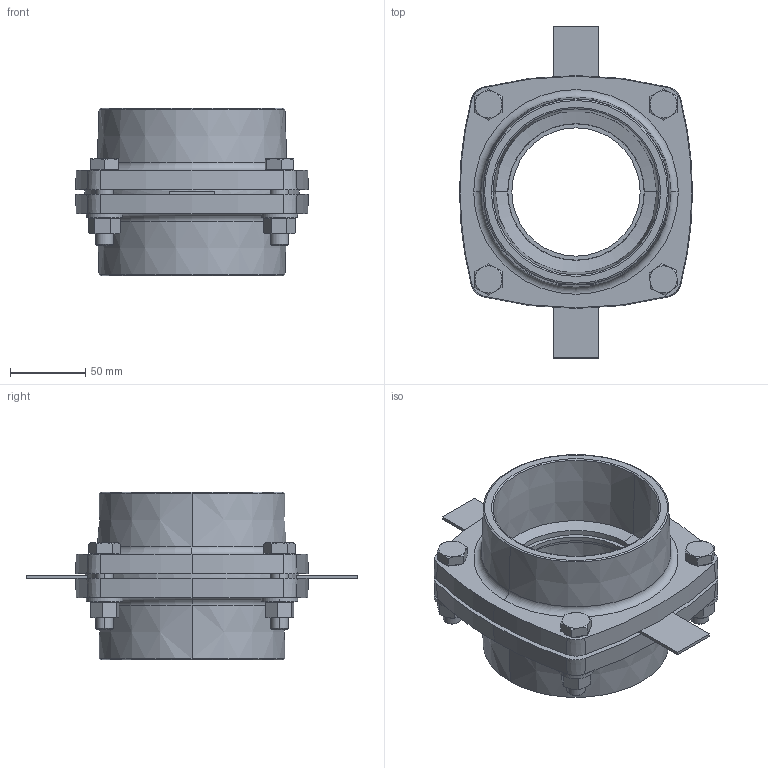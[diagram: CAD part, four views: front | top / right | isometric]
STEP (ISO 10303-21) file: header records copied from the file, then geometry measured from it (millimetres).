
FILE_DESCRIPTION (( 'STEP AP214' ), '1' );
FILE_NAME ('KP_F16-110FF.step', '2012-09-24T15:01:17', ( '' ), ( '' ), 'SwSTEP 2.0', 'SolidWorks 2012', '' );
FILE_SCHEMA (( 'AUTOMOTIVE_DESIGN' ));
Length unit declared in the file: millimetre
Products named in the file (1): KP_F16-110FF
Bounding box: 154.3 x 220 x 111 mm (x, y, z)
Volume: 655414.4 mm3; surface area: 188105.3 mm2
Topology: 15 solids, 15 shells, 376 faces, 816 edges, 476 vertices
Faces by surface type: cone 148, plane 140, cylinder 76, torus 12
Entity records: 14868 total; most frequent: CARTESIAN_POINT 2229, DIRECTION 1854, ORIENTED_EDGE 1632, EDGE_CURVE 816, AXIS2_PLACEMENT_3D 757, VERTEX_POINT 476, EDGE_LOOP 420, UNCERTAINTY_MEASURE_WITH_UNIT 393
